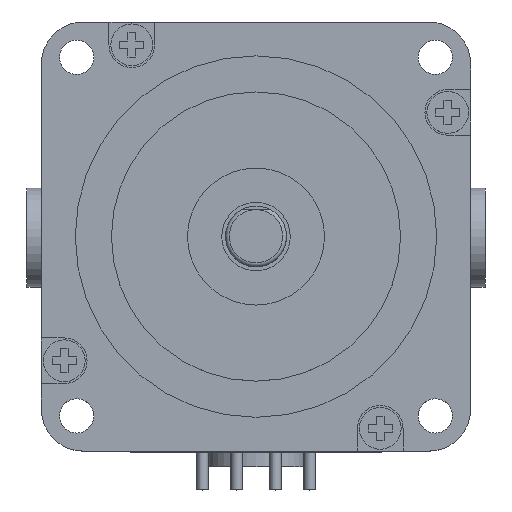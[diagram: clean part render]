
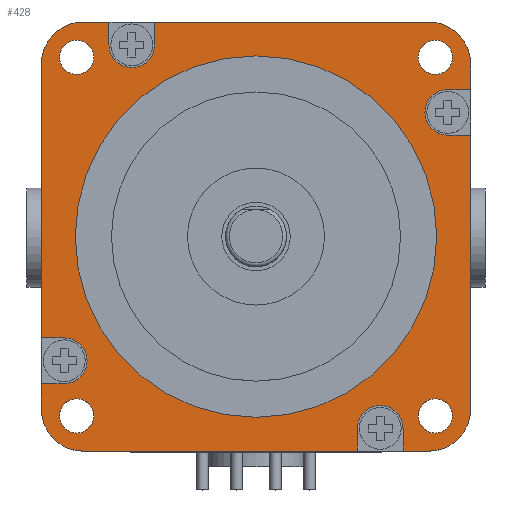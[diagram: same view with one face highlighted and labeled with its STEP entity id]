
A CAD part, top view. The second image highlights one B-rep face of the part: STEP entity #428.
In plain terms, the highlighted planar face has unit normal (0, 0, 1).
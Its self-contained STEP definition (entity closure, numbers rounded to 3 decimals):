
#428=ADVANCED_FACE('',(#1070,#1071,#1072,#1073,#1074,#1075),#691,.T.);
#691=PLANE('',#4848);
#905=CIRCLE('',#4835,5.5);
#906=CIRCLE('',#4836,3.);
#907=CIRCLE('',#4837,5.5);
#908=CIRCLE('',#4838,3.);
#909=CIRCLE('',#4839,5.5);
#910=CIRCLE('',#4840,3.);
#911=CIRCLE('',#4841,5.5);
#912=CIRCLE('',#4842,3.);
#913=CIRCLE('',#4843,23.75);
#914=CIRCLE('',#4844,2.25);
#915=CIRCLE('',#4845,2.25);
#916=CIRCLE('',#4846,2.25);
#917=CIRCLE('',#4847,2.25);
#1070=FACE_BOUND('',#1186,.T.);
#1071=FACE_BOUND('',#1187,.T.);
#1072=FACE_BOUND('',#1188,.T.);
#1073=FACE_BOUND('',#1189,.T.);
#1074=FACE_BOUND('',#1190,.T.);
#1075=FACE_BOUND('',#1191,.T.);
#1186=EDGE_LOOP('',(#1643,#1644,#1645,#1646,#1647,#1648,#1649,#1650,#1651,
#1652,#1653,#1654,#1655,#1656,#1657,#1658,#1659,#1660,#1661,#1662,#1663,
#1664,#1665,#1666));
#1187=EDGE_LOOP('',(#1667));
#1188=EDGE_LOOP('',(#1668));
#1189=EDGE_LOOP('',(#1669));
#1190=EDGE_LOOP('',(#1670));
#1191=EDGE_LOOP('',(#1671));
#1643=ORIENTED_EDGE('',*,*,#3385,.T.);
#1644=ORIENTED_EDGE('',*,*,#3386,.T.);
#1645=ORIENTED_EDGE('',*,*,#3387,.T.);
#1646=ORIENTED_EDGE('',*,*,#3388,.F.);
#1647=ORIENTED_EDGE('',*,*,#3389,.F.);
#1648=ORIENTED_EDGE('',*,*,#3390,.F.);
#1649=ORIENTED_EDGE('',*,*,#3391,.T.);
#1650=ORIENTED_EDGE('',*,*,#3392,.T.);
#1651=ORIENTED_EDGE('',*,*,#3393,.T.);
#1652=ORIENTED_EDGE('',*,*,#3394,.F.);
#1653=ORIENTED_EDGE('',*,*,#3395,.F.);
#1654=ORIENTED_EDGE('',*,*,#3396,.F.);
#1655=ORIENTED_EDGE('',*,*,#3397,.T.);
#1656=ORIENTED_EDGE('',*,*,#3398,.T.);
#1657=ORIENTED_EDGE('',*,*,#3381,.T.);
#1658=ORIENTED_EDGE('',*,*,#3399,.T.);
#1659=ORIENTED_EDGE('',*,*,#3400,.T.);
#1660=ORIENTED_EDGE('',*,*,#3401,.T.);
#1661=ORIENTED_EDGE('',*,*,#3377,.T.);
#1662=ORIENTED_EDGE('',*,*,#3402,.T.);
#1663=ORIENTED_EDGE('',*,*,#3403,.T.);
#1664=ORIENTED_EDGE('',*,*,#3404,.F.);
#1665=ORIENTED_EDGE('',*,*,#3405,.F.);
#1666=ORIENTED_EDGE('',*,*,#3406,.F.);
#1667=ORIENTED_EDGE('',*,*,#3407,.T.);
#1668=ORIENTED_EDGE('',*,*,#3408,.F.);
#1669=ORIENTED_EDGE('',*,*,#3409,.F.);
#1670=ORIENTED_EDGE('',*,*,#3410,.F.);
#1671=ORIENTED_EDGE('',*,*,#3411,.F.);
#2929=VERTEX_POINT('',#6928);
#2930=VERTEX_POINT('',#6930);
#2933=VERTEX_POINT('',#6936);
#2934=VERTEX_POINT('',#6938);
#2937=VERTEX_POINT('',#6946);
#2938=VERTEX_POINT('',#6947);
#2939=VERTEX_POINT('',#6949);
#2940=VERTEX_POINT('',#6951);
#2941=VERTEX_POINT('',#6953);
#2942=VERTEX_POINT('',#6955);
#2943=VERTEX_POINT('',#6957);
#2944=VERTEX_POINT('',#6959);
#2945=VERTEX_POINT('',#6961);
#2946=VERTEX_POINT('',#6963);
#2947=VERTEX_POINT('',#6965);
#2948=VERTEX_POINT('',#6967);
#2949=VERTEX_POINT('',#6969);
#2950=VERTEX_POINT('',#6971);
#2951=VERTEX_POINT('',#6974);
#2952=VERTEX_POINT('',#6976);
#2953=VERTEX_POINT('',#6979);
#2954=VERTEX_POINT('',#6981);
#2955=VERTEX_POINT('',#6983);
#2956=VERTEX_POINT('',#6985);
#2957=VERTEX_POINT('',#6988);
#2958=VERTEX_POINT('',#6990);
#2959=VERTEX_POINT('',#6992);
#2960=VERTEX_POINT('',#6994);
#2961=VERTEX_POINT('',#6996);
#3377=EDGE_CURVE('',#2930,#2929,#3965,.T.);
#3381=EDGE_CURVE('',#2934,#2933,#3969,.T.);
#3385=EDGE_CURVE('',#2937,#2938,#3973,.T.);
#3386=EDGE_CURVE('',#2938,#2939,#905,.T.);
#3387=EDGE_CURVE('',#2939,#2940,#3974,.T.);
#3388=EDGE_CURVE('',#2941,#2940,#3975,.T.);
#3389=EDGE_CURVE('',#2942,#2941,#906,.T.);
#3390=EDGE_CURVE('',#2943,#2942,#3976,.T.);
#3391=EDGE_CURVE('',#2943,#2944,#3977,.T.);
#3392=EDGE_CURVE('',#2944,#2945,#907,.T.);
#3393=EDGE_CURVE('',#2945,#2946,#3978,.T.);
#3394=EDGE_CURVE('',#2947,#2946,#3979,.T.);
#3395=EDGE_CURVE('',#2948,#2947,#908,.T.);
#3396=EDGE_CURVE('',#2949,#2948,#3980,.T.);
#3397=EDGE_CURVE('',#2949,#2950,#3981,.T.);
#3398=EDGE_CURVE('',#2950,#2934,#909,.T.);
#3399=EDGE_CURVE('',#2933,#2951,#3982,.T.);
#3400=EDGE_CURVE('',#2951,#2952,#910,.T.);
#3401=EDGE_CURVE('',#2952,#2930,#3983,.T.);
#3402=EDGE_CURVE('',#2929,#2953,#911,.T.);
#3403=EDGE_CURVE('',#2953,#2954,#3984,.T.);
#3404=EDGE_CURVE('',#2955,#2954,#3985,.T.);
#3405=EDGE_CURVE('',#2956,#2955,#912,.T.);
#3406=EDGE_CURVE('',#2937,#2956,#3986,.T.);
#3407=EDGE_CURVE('',#2957,#2957,#913,.T.);
#3408=EDGE_CURVE('',#2958,#2958,#914,.T.);
#3409=EDGE_CURVE('',#2959,#2959,#915,.T.);
#3410=EDGE_CURVE('',#2960,#2960,#916,.T.);
#3411=EDGE_CURVE('',#2961,#2961,#917,.T.);
#3965=LINE('',#6929,#4404);
#3969=LINE('',#6937,#4408);
#3973=LINE('',#6945,#4412);
#3974=LINE('',#6950,#4413);
#3975=LINE('',#6952,#4414);
#3976=LINE('',#6956,#4415);
#3977=LINE('',#6958,#4416);
#3978=LINE('',#6962,#4417);
#3979=LINE('',#6964,#4418);
#3980=LINE('',#6968,#4419);
#3981=LINE('',#6970,#4420);
#3982=LINE('',#6973,#4421);
#3983=LINE('',#6977,#4422);
#3984=LINE('',#6980,#4423);
#3985=LINE('',#6982,#4424);
#3986=LINE('',#6986,#4425);
#4404=VECTOR('',#5473,1.);
#4408=VECTOR('',#5477,1.);
#4412=VECTOR('',#5483,1.);
#4413=VECTOR('',#5486,1.);
#4414=VECTOR('',#5487,1.);
#4415=VECTOR('',#5490,1.);
#4416=VECTOR('',#5491,1.);
#4417=VECTOR('',#5494,1.);
#4418=VECTOR('',#5495,1.);
#4419=VECTOR('',#5498,1.);
#4420=VECTOR('',#5499,1.);
#4421=VECTOR('',#5502,1.);
#4422=VECTOR('',#5505,1.);
#4423=VECTOR('',#5508,1.);
#4424=VECTOR('',#5509,1.);
#4425=VECTOR('',#5512,1.);
#4835=AXIS2_PLACEMENT_3D('',#6948,#5484,#5485);
#4836=AXIS2_PLACEMENT_3D('',#6954,#5488,#5489);
#4837=AXIS2_PLACEMENT_3D('',#6960,#5492,#5493);
#4838=AXIS2_PLACEMENT_3D('',#6966,#5496,#5497);
#4839=AXIS2_PLACEMENT_3D('',#6972,#5500,#5501);
#4840=AXIS2_PLACEMENT_3D('',#6975,#5503,#5504);
#4841=AXIS2_PLACEMENT_3D('',#6978,#5506,#5507);
#4842=AXIS2_PLACEMENT_3D('',#6984,#5510,#5511);
#4843=AXIS2_PLACEMENT_3D('',#6987,#5513,#5514);
#4844=AXIS2_PLACEMENT_3D('',#6989,#5515,#5516);
#4845=AXIS2_PLACEMENT_3D('',#6991,#5517,#5518);
#4846=AXIS2_PLACEMENT_3D('',#6993,#5519,#5520);
#4847=AXIS2_PLACEMENT_3D('',#6995,#5521,#5522);
#4848=AXIS2_PLACEMENT_3D('',#6997,#5523,#5524);
#5473=DIRECTION('',(-1.,0.,0.));
#5477=DIRECTION('',(-1.,0.,0.));
#5483=DIRECTION('',(0.,-1.,0.));
#5484=DIRECTION('',(0.,0.,1.));
#5485=DIRECTION('',(1.,0.,0.));
#5486=DIRECTION('',(1.,0.,0.));
#5487=DIRECTION('',(0.,-1.,0.));
#5488=DIRECTION('',(0.,0.,1.));
#5489=DIRECTION('',(-1.,0.,0.));
#5490=DIRECTION('',(0.,1.,0.));
#5491=DIRECTION('',(1.,0.,0.));
#5492=DIRECTION('',(0.,0.,1.));
#5493=DIRECTION('',(1.,0.,0.));
#5494=DIRECTION('',(0.,1.,0.));
#5495=DIRECTION('',(1.,0.,0.));
#5496=DIRECTION('',(0.,0.,1.));
#5497=DIRECTION('',(0.,-1.,0.));
#5498=DIRECTION('',(-1.,0.,0.));
#5499=DIRECTION('',(0.,1.,0.));
#5500=DIRECTION('',(0.,0.,1.));
#5501=DIRECTION('',(1.,0.,0.));
#5502=DIRECTION('',(0.,-1.,0.));
#5503=DIRECTION('',(0.,0.,-1.));
#5504=DIRECTION('',(1.,0.,0.));
#5505=DIRECTION('',(0.,1.,0.));
#5506=DIRECTION('',(0.,0.,1.));
#5507=DIRECTION('',(1.,0.,0.));
#5508=DIRECTION('',(0.,-1.,0.));
#5509=DIRECTION('',(-1.,0.,0.));
#5510=DIRECTION('',(0.,0.,1.));
#5511=DIRECTION('',(0.,1.,0.));
#5512=DIRECTION('',(1.,0.,0.));
#5513=DIRECTION('',(0.,0.,-1.));
#5514=DIRECTION('',(1.,0.,0.));
#5515=DIRECTION('',(0.,0.,1.));
#5516=DIRECTION('',(1.,0.,0.));
#5517=DIRECTION('',(0.,0.,1.));
#5518=DIRECTION('',(1.,0.,0.));
#5519=DIRECTION('',(0.,0.,1.));
#5520=DIRECTION('',(1.,0.,0.));
#5521=DIRECTION('',(0.,0.,1.));
#5522=DIRECTION('',(1.,0.,0.));
#5523=DIRECTION('',(0.,0.,1.));
#5524=DIRECTION('',(1.,0.,0.));
#6928=CARTESIAN_POINT('',(-22.7,28.2,0.));
#6929=CARTESIAN_POINT('',(28.2,28.2,0.));
#6930=CARTESIAN_POINT('',(-19.324,28.2,0.));
#6936=CARTESIAN_POINT('',(-13.324,28.2,0.));
#6937=CARTESIAN_POINT('',(28.2,28.2,0.));
#6938=CARTESIAN_POINT('',(22.7,28.2,0.));
#6945=CARTESIAN_POINT('',(-28.2,28.2,0.));
#6946=CARTESIAN_POINT('',(-28.2,-19.324,0.));
#6947=CARTESIAN_POINT('',(-28.2,-22.7,0.));
#6948=CARTESIAN_POINT('',(-22.7,-22.7,0.));
#6949=CARTESIAN_POINT('',(-22.7,-28.2,0.));
#6950=CARTESIAN_POINT('',(-28.2,-28.2,0.));
#6951=CARTESIAN_POINT('',(13.324,-28.2,0.));
#6952=CARTESIAN_POINT('',(13.324,-25.2,0.));
#6953=CARTESIAN_POINT('',(13.324,-25.2,0.));
#6954=CARTESIAN_POINT('',(16.324,-25.2,0.));
#6955=CARTESIAN_POINT('',(19.324,-25.2,0.));
#6956=CARTESIAN_POINT('',(19.324,-28.2,0.));
#6957=CARTESIAN_POINT('',(19.324,-28.2,0.));
#6958=CARTESIAN_POINT('',(-28.2,-28.2,0.));
#6959=CARTESIAN_POINT('',(22.7,-28.2,0.));
#6960=CARTESIAN_POINT('',(22.7,-22.7,0.));
#6961=CARTESIAN_POINT('',(28.2,-22.7,0.));
#6962=CARTESIAN_POINT('',(28.2,-28.2,0.));
#6963=CARTESIAN_POINT('',(28.2,13.324,0.));
#6964=CARTESIAN_POINT('',(25.2,13.324,0.));
#6965=CARTESIAN_POINT('',(25.2,13.324,0.));
#6966=CARTESIAN_POINT('',(25.2,16.324,0.));
#6967=CARTESIAN_POINT('',(25.2,19.324,0.));
#6968=CARTESIAN_POINT('',(28.2,19.324,0.));
#6969=CARTESIAN_POINT('',(28.2,19.324,0.));
#6970=CARTESIAN_POINT('',(28.2,-28.2,0.));
#6971=CARTESIAN_POINT('',(28.2,22.7,0.));
#6972=CARTESIAN_POINT('',(22.7,22.7,0.));
#6973=CARTESIAN_POINT('',(-13.324,28.2,0.));
#6974=CARTESIAN_POINT('',(-13.324,25.2,0.));
#6975=CARTESIAN_POINT('',(-16.324,25.2,0.));
#6976=CARTESIAN_POINT('',(-19.324,25.2,0.));
#6977=CARTESIAN_POINT('',(-19.324,25.2,0.));
#6978=CARTESIAN_POINT('',(-22.7,22.7,0.));
#6979=CARTESIAN_POINT('',(-28.2,22.7,0.));
#6980=CARTESIAN_POINT('',(-28.2,28.2,0.));
#6981=CARTESIAN_POINT('',(-28.2,-13.324,0.));
#6982=CARTESIAN_POINT('',(-25.2,-13.324,0.));
#6983=CARTESIAN_POINT('',(-25.2,-13.324,0.));
#6984=CARTESIAN_POINT('',(-25.2,-16.324,0.));
#6985=CARTESIAN_POINT('',(-25.2,-19.324,0.));
#6986=CARTESIAN_POINT('',(-28.2,-19.324,0.));
#6987=CARTESIAN_POINT('',(0.,0.,0.));
#6988=CARTESIAN_POINT('',(23.75,0.,0.));
#6989=CARTESIAN_POINT('',(23.57,-23.57,0.));
#6990=CARTESIAN_POINT('',(25.82,-23.57,0.));
#6991=CARTESIAN_POINT('',(23.57,23.57,0.));
#6992=CARTESIAN_POINT('',(25.82,23.57,0.));
#6993=CARTESIAN_POINT('',(-23.57,23.57,0.));
#6994=CARTESIAN_POINT('',(-21.32,23.57,0.));
#6995=CARTESIAN_POINT('',(-23.57,-23.57,0.));
#6996=CARTESIAN_POINT('',(-21.32,-23.57,0.));
#6997=CARTESIAN_POINT('',(28.2,-28.2,0.));
